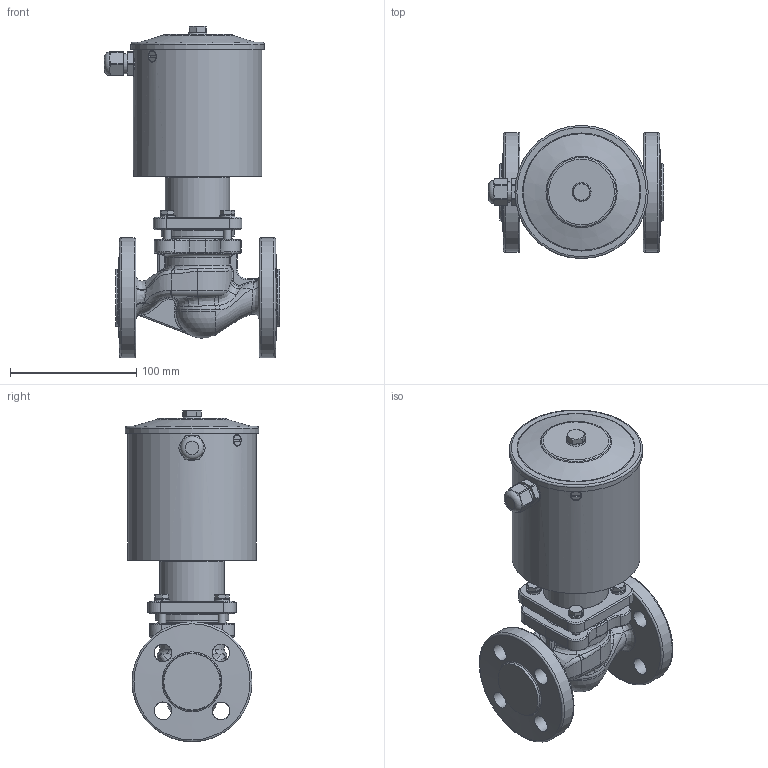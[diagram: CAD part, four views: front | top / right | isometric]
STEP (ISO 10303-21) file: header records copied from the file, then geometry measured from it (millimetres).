
FILE_DESCRIPTION((''),'2;1');
FILE_NAME('D:\CAD-Download Local\02-EVA 5N-4.stp','2011-04-01T12:15:15',('lh'),(''),'Autodesk Inventor 2008','Autodesk Inventor 2008','');
FILE_SCHEMA(('AUTOMOTIVE_DESIGN { 1 0 10303 214 1 1 1 1 }'));
Length unit declared in the file: millimetre
Products named in the file (1): 02-EVA 5N-4
Bounding box: 138.8 x 105.6 x 262.8 mm (x, y, z)
Volume: 1411297.9 mm3; surface area: 134329.2 mm2
Topology: 1 solids, 1 shells, 460 faces, 1085 edges, 656 vertices
Faces by surface type: bspline 157, plane 131, cylinder 84, cone 64, torus 23, sphere 1
Full cylindrical faces by diameter (mm): 6 x4, 8.88 x4, 11.63 x1, 14 x4, 16 x2, 20 x1, 43 x1, 49 x1, 49.8 x1, 51 x1, 58 x1, 95 x1, 101.6 x1, 105.6 x1
Entity records: 28598 total; most frequent: CARTESIAN_POINT 19035, ORIENTED_EDGE 1922, DIRECTION 1622, EDGE_CURVE 961, AXIS2_PLACEMENT_3D 691, VERTEX_POINT 613, EDGE_LOOP 600, FACE_OUTER_BOUND 459
